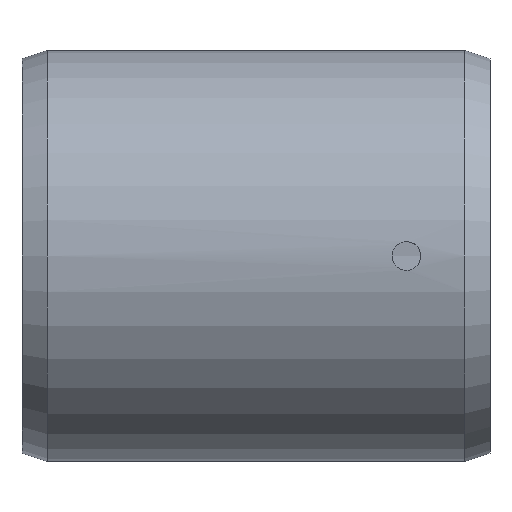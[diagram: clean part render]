
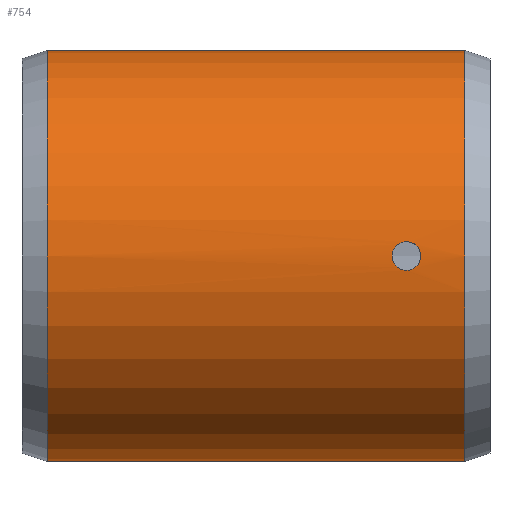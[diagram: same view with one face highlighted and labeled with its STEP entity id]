
A CAD part, front view. The second image highlights one B-rep face of the part: STEP entity #754.
In plain terms, the highlighted cylindrical face has radius 24.606 mm (diameter 49.213 mm), a partial arc.
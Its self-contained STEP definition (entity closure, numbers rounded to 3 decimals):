
#10 = ORIENTED_EDGE ( 'NONE', *, *, #926, .T. ) ;
#24 = ORIENTED_EDGE ( 'NONE', *, *, #148, .T. ) ;
#55 = CARTESIAN_POINT ( 'NONE',  ( 16.273, -24.606, 0.112 ) ) ;
#86 = DIRECTION ( 'NONE',  ( -1., 0., 0. ) ) ;
#87 = CARTESIAN_POINT ( 'NONE',  ( 17.774, -24.546, -1.716 ) ) ;
#119 = ORIENTED_EDGE ( 'NONE', *, *, #473, .T. ) ;
#145 = VECTOR ( 'NONE', #261, 1000. ) ;
#148 = EDGE_CURVE ( 'NONE', #624, #590, #717, .T. ) ;
#158 = VECTOR ( 'NONE', #684, 1000. ) ;
#167 = CIRCLE ( 'NONE', #442, 24.606 ) ;
#171 = VERTEX_POINT ( 'NONE', #460 ) ;
#177 = CARTESIAN_POINT ( 'NONE',  ( -25., 0., 24.606 ) ) ;
#209 = ORIENTED_EDGE ( 'NONE', *, *, #695, .T. ) ;
#210 = CARTESIAN_POINT ( 'NONE',  ( 17.135, -24.561, -1.499 ) ) ;
#219 = CARTESIAN_POINT ( 'NONE',  ( 28., 0., 0. ) ) ;
#221 = CARTESIAN_POINT ( 'NONE',  ( -25., 0., 0. ) ) ;
#230 = CARTESIAN_POINT ( 'NONE',  ( 17.443, -24.552, -1.639 ) ) ;
#232 = CARTESIAN_POINT ( 'NONE',  ( 16.318, -24.603, -0.453 ) ) ;
#236 = CARTESIAN_POINT ( 'NONE',  ( 16.491, -24.592, -0.869 ) ) ;
#242 = CARTESIAN_POINT ( 'NONE',  ( 17.553, -24.549, -1.672 ) ) ;
#245 = EDGE_CURVE ( 'NONE', #171, #435, #757, .T. ) ;
#254 = DIRECTION ( 'NONE',  ( -1., 0., 0. ) ) ;
#258 = CARTESIAN_POINT ( 'NONE',  ( 25., 0., 0. ) ) ;
#261 = DIRECTION ( 'NONE',  ( -1., 0., 0. ) ) ;
#265 = CARTESIAN_POINT ( 'NONE',  ( 18., -24.546, -1.727 ) ) ;
#266 = CARTESIAN_POINT ( 'NONE',  ( 16.273, -24.606, -0.226 ) ) ;
#284 = DIRECTION ( 'NONE',  ( 0., 0., -1. ) ) ;
#288 = CARTESIAN_POINT ( 'NONE',  ( -25., 0., -24.606 ) ) ;
#296 = CARTESIAN_POINT ( 'NONE',  ( 28., 0., 24.606 ) ) ;
#311 = DIRECTION ( 'NONE',  ( 0., 0., -1. ) ) ;
#317 = DIRECTION ( 'NONE',  ( 1., 0., 0. ) ) ;
#329 = CARTESIAN_POINT ( 'NONE',  ( 18.453, -24.549, 1.682 ) ) ;
#338 = B_SPLINE_CURVE_WITH_KNOTS ( 'NONE', 3,
 ( #565, #959, #329, #670, #933, #928, #979, #470, #478, #481, #897, #903, #454, #352, #832, #967, #510, #515, #461, #850, #635, #475, #974, #936, #600, #785 ),
 .UNSPECIFIED., .F., .F.,
 ( 4, 2, 2, 2, 2, 2, 2, 2, 2, 2, 2, 2, 4 ),
 ( 0.005, 0.006, 0.007, 0.007, 0.007, 0.008, 0.008, 0.008, 0.009, 0.009, 0.009, 0.01, 0.011 ),
 .UNSPECIFIED. ) ;
#352 = CARTESIAN_POINT ( 'NONE',  ( 19.727, -24.606, -0.113 ) ) ;
#373 = CARTESIAN_POINT ( 'NONE',  ( 16.858, -24.572, -1.301 ) ) ;
#401 = FACE_OUTER_BOUND ( 'NONE', #758, .T. ) ;
#423 = VERTEX_POINT ( 'NONE', #669 ) ;
#431 = FACE_BOUND ( 'NONE', #661, .T. ) ;
#435 = VERTEX_POINT ( 'NONE', #288 ) ;
#442 = AXIS2_PLACEMENT_3D ( 'NONE', #258, #254, #284 ) ;
#443 = CIRCLE ( 'NONE', #919, 24.606 ) ;
#454 = CARTESIAN_POINT ( 'NONE',  ( 19.727, -24.606, 0.115 ) ) ;
#460 = CARTESIAN_POINT ( 'NONE',  ( 25., 0., -24.606 ) ) ;
#461 = CARTESIAN_POINT ( 'NONE',  ( 19.5, -24.591, -0.864 ) ) ;
#470 = CARTESIAN_POINT ( 'NONE',  ( 19.499, -24.591, 0.866 ) ) ;
#473 = EDGE_CURVE ( 'NONE', #950, #435, #443, .T. ) ;
#475 = CARTESIAN_POINT ( 'NONE',  ( 19.063, -24.568, -1.38 ) ) ;
#476 = CARTESIAN_POINT ( 'NONE',  ( 17.886, -24.546, -1.727 ) ) ;
#478 = CARTESIAN_POINT ( 'NONE',  ( 19.552, -24.595, 0.767 ) ) ;
#481 = CARTESIAN_POINT ( 'NONE',  ( 19.638, -24.6, 0.558 ) ) ;
#483 = CARTESIAN_POINT ( 'NONE',  ( 18., -24.546, 1.727 ) ) ;
#490 = CARTESIAN_POINT ( 'NONE',  ( 17.887, -24.546, 1.727 ) ) ;
#493 = CARTESIAN_POINT ( 'NONE',  ( 17.773, -24.546, 1.716 ) ) ;
#495 = CARTESIAN_POINT ( 'NONE',  ( 17.551, -24.549, 1.672 ) ) ;
#499 = CARTESIAN_POINT ( 'NONE',  ( 17.444, -24.552, 1.639 ) ) ;
#510 = CARTESIAN_POINT ( 'NONE',  ( 19.639, -24.6, -0.555 ) ) ;
#515 = CARTESIAN_POINT ( 'NONE',  ( 19.553, -24.595, -0.765 ) ) ;
#538 = DIRECTION ( 'NONE',  ( 0., 0., 1. ) ) ;
#539 = CARTESIAN_POINT ( 'NONE',  ( 16.946, -24.568, 1.373 ) ) ;
#543 = CARTESIAN_POINT ( 'NONE',  ( 17.133, -24.561, 1.498 ) ) ;
#549 = CARTESIAN_POINT ( 'NONE',  ( 17.234, -24.557, 1.552 ) ) ;
#555 = CARTESIAN_POINT ( 'NONE',  ( 18., -24.546, -1.727 ) ) ;
#556 = CARTESIAN_POINT ( 'NONE',  ( 16.328, -24.602, 0.448 ) ) ;
#565 = CARTESIAN_POINT ( 'NONE',  ( 18., -24.546, 1.727 ) ) ;
#567 = CARTESIAN_POINT ( 'NONE',  ( 16.698, -24.58, 1.14 ) ) ;
#570 = ORIENTED_EDGE ( 'NONE', *, *, #245, .F. ) ;
#590 = VERTEX_POINT ( 'NONE', #606 ) ;
#593 = CARTESIAN_POINT ( 'NONE',  ( 16.859, -24.572, 1.302 ) ) ;
#597 = CARTESIAN_POINT ( 'NONE',  ( 16.284, -24.605, 0.227 ) ) ;
#599 = CARTESIAN_POINT ( 'NONE',  ( 16.501, -24.591, 0.866 ) ) ;
#600 = CARTESIAN_POINT ( 'NONE',  ( 18.228, -24.546, -1.727 ) ) ;
#601 = ORIENTED_EDGE ( 'NONE', *, *, #674, .T. ) ;
#605 = CARTESIAN_POINT ( 'NONE',  ( 16.447, -24.595, 0.765 ) ) ;
#606 = CARTESIAN_POINT ( 'NONE',  ( 18., -24.546, 1.727 ) ) ;
#608 = CARTESIAN_POINT ( 'NONE',  ( 16.626, -24.584, 1.053 ) ) ;
#624 = VERTEX_POINT ( 'NONE', #555 ) ;
#629 = CARTESIAN_POINT ( 'NONE',  ( 16.361, -24.6, 0.556 ) ) ;
#635 = CARTESIAN_POINT ( 'NONE',  ( 19.302, -24.58, -1.141 ) ) ;
#640 = CARTESIAN_POINT ( 'NONE',  ( 16.619, -24.584, -1.062 ) ) ;
#661 = EDGE_LOOP ( 'NONE', ( #24, #10 ) ) ;
#669 = CARTESIAN_POINT ( 'NONE',  ( 25., 0., 24.606 ) ) ;
#670 = CARTESIAN_POINT ( 'NONE',  ( 18.868, -24.56, 1.51 ) ) ;
#674 = EDGE_CURVE ( 'NONE', #171, #423, #167, .T. ) ;
#684 = DIRECTION ( 'NONE',  ( -1., 0., 0. ) ) ;
#694 = CARTESIAN_POINT ( 'NONE',  ( 28., 0., -24.606 ) ) ;
#695 = EDGE_CURVE ( 'NONE', #423, #950, #905, .T. ) ;
#697 = CARTESIAN_POINT ( 'NONE',  ( 17.234, -24.557, -1.552 ) ) ;
#714 = CARTESIAN_POINT ( 'NONE',  ( 16.947, -24.568, -1.374 ) ) ;
#717 = B_SPLINE_CURVE_WITH_KNOTS ( 'NONE', 3,
 ( #265, #476, #87, #242, #230, #697, #210, #714, #373, #640, #236, #232, #266, #55, #597, #556, #629, #605, #599, #608, #567, #593, #539, #543, #549, #499, #495, #493, #490, #483 ),
 .UNSPECIFIED., .F., .F.,
 ( 4, 2, 2, 2, 2, 2, 2, 2, 2, 2, 2, 2, 2, 2, 4 ),
 ( 0., 0., 0.001, 0.001, 0.001, 0.002, 0.003, 0.003, 0.003, 0.004, 0.004, 0.004, 0.005, 0.005, 0.005 ),
 .UNSPECIFIED. ) ;
#754 = ADVANCED_FACE ( 'NONE', ( #401, #431 ), #795, .T. ) ;
#757 = LINE ( 'NONE', #694, #158 ) ;
#758 = EDGE_LOOP ( 'NONE', ( #570, #601, #209, #119 ) ) ;
#785 = CARTESIAN_POINT ( 'NONE',  ( 18., -24.546, -1.727 ) ) ;
#795 = CYLINDRICAL_SURFACE ( 'NONE', #946, 24.606 ) ;
#832 = CARTESIAN_POINT ( 'NONE',  ( 19.716, -24.605, -0.225 ) ) ;
#850 = CARTESIAN_POINT ( 'NONE',  ( 19.375, -24.584, -1.052 ) ) ;
#897 = CARTESIAN_POINT ( 'NONE',  ( 19.672, -24.602, 0.448 ) ) ;
#903 = CARTESIAN_POINT ( 'NONE',  ( 19.716, -24.605, 0.228 ) ) ;
#905 = LINE ( 'NONE', #296, #145 ) ;
#919 = AXIS2_PLACEMENT_3D ( 'NONE', #221, #317, #311 ) ;
#926 = EDGE_CURVE ( 'NONE', #590, #624, #338, .T. ) ;
#928 = CARTESIAN_POINT ( 'NONE',  ( 19.3, -24.58, 1.143 ) ) ;
#933 = CARTESIAN_POINT ( 'NONE',  ( 19.061, -24.568, 1.381 ) ) ;
#936 = CARTESIAN_POINT ( 'NONE',  ( 18.455, -24.549, -1.681 ) ) ;
#946 = AXIS2_PLACEMENT_3D ( 'NONE', #219, #86, #538 ) ;
#950 = VERTEX_POINT ( 'NONE', #177 ) ;
#959 = CARTESIAN_POINT ( 'NONE',  ( 18.225, -24.546, 1.727 ) ) ;
#967 = CARTESIAN_POINT ( 'NONE',  ( 19.672, -24.602, -0.446 ) ) ;
#974 = CARTESIAN_POINT ( 'NONE',  ( 18.87, -24.56, -1.509 ) ) ;
#979 = CARTESIAN_POINT ( 'NONE',  ( 19.373, -24.584, 1.054 ) ) ;
